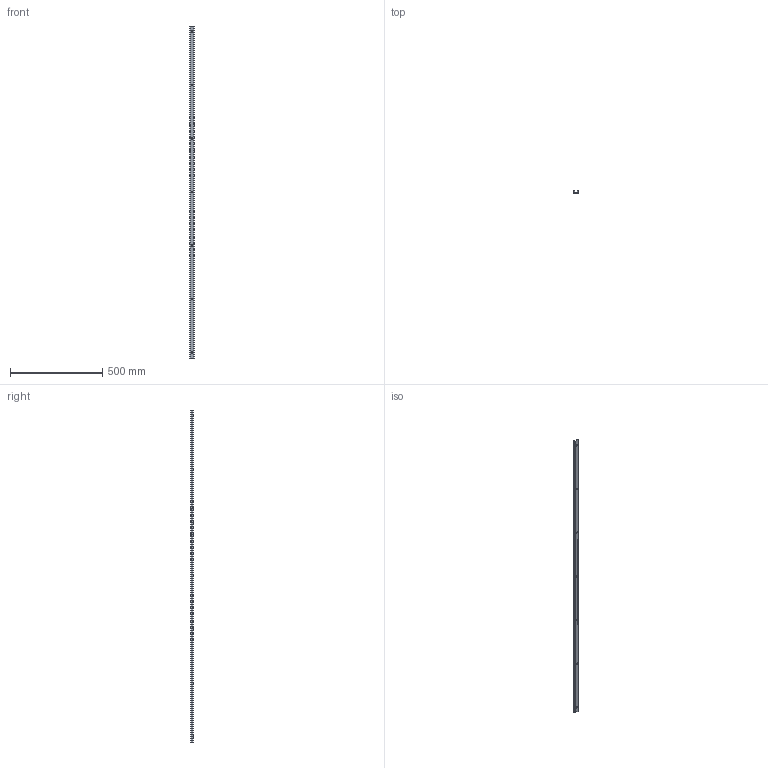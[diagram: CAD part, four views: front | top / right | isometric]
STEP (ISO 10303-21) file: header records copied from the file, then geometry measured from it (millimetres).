
FILE_DESCRIPTION (( 'STEP AP214' ), '1' );
FILE_NAME ('C-skena 1800mm.STEP', '2014-04-10T14:30:21', ( '' ), ( '' ), 'SwSTEP 2.0', 'SolidWorks 2012', '' );
FILE_SCHEMA (( 'AUTOMOTIVE_DESIGN' ));
Length unit declared in the file: millimetre
Products named in the file (1): C-skena 1800mm
Bounding box: 27 x 12 x 1800 mm (x, y, z)
Volume: 195720.6 mm3; surface area: 203607.1 mm2
Topology: 1 solids, 1 shells, 36 faces, 102 edges, 68 vertices
Faces by surface type: cone 14, plane 14, cylinder 8
Entity records: 1494 total; most frequent: DIRECTION 220, CARTESIAN_POINT 207, ORIENTED_EDGE 204, EDGE_CURVE 102, AXIS2_PLACEMENT_3D 81, VERTEX_POINT 68, LINE 58, VECTOR 58
